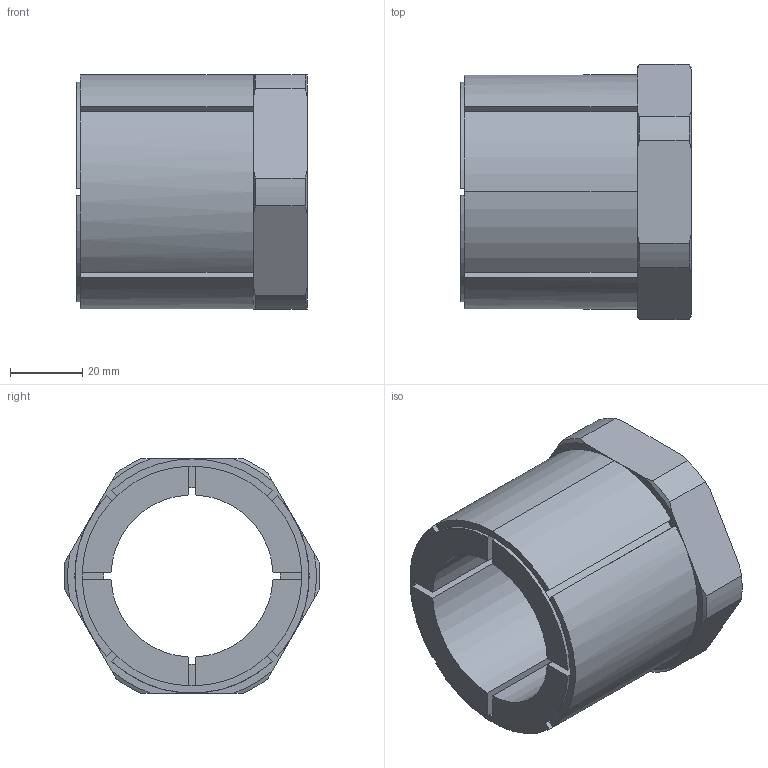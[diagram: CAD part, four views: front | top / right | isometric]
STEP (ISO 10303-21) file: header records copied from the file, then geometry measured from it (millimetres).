
FILE_DESCRIPTION (( 'STEP AP203' ), '1' );
FILE_NAME ('KBS 58 - 45 x 65.STEP', '2015-07-05T20:00:58', ( '' ), ( '' ), 'SwSTEP 2.0', 'SolidWorks 2010', '' );
FILE_SCHEMA (( 'CONFIG_CONTROL_DESIGN' ));
Length unit declared in the file: millimetre
Products named in the file (1): KBS 58 - 45 x 65
Bounding box: 64 x 70.95 x 65 mm (x, y, z)
Volume: 109481.7 mm3; surface area: 31080.9 mm2
Topology: 1 solids, 1 shells, 84 faces, 231 edges, 149 vertices
Faces by surface type: plane 42, cylinder 26, cone 16
Entity records: 2817 total; most frequent: CARTESIAN_POINT 585, ORIENTED_EDGE 462, DIRECTION 454, EDGE_CURVE 231, AXIS2_PLACEMENT_3D 170, VERTEX_POINT 149, VECTOR 114, LINE 114
